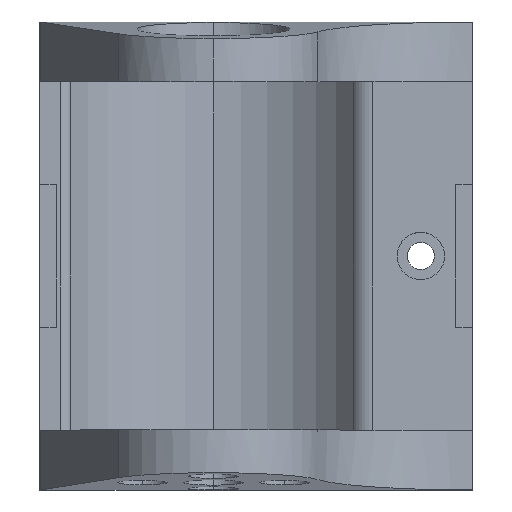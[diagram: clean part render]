
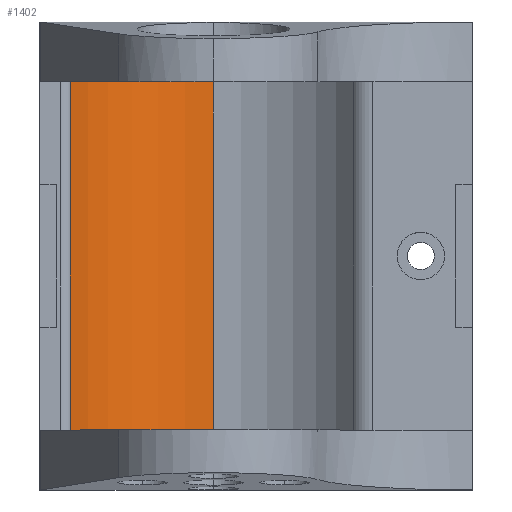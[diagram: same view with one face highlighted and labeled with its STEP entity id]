
A CAD part, top view. The second image highlights one B-rep face of the part: STEP entity #1402.
In plain terms, the highlighted cylindrical face has radius 14.25 mm (diameter 28.5 mm), a partial arc.
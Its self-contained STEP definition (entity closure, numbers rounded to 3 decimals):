
#45 = CIRCLE ( 'NONE', #2088, 14.25 ) ;
#95 = LINE ( 'NONE', #976, #1679 ) ;
#152 = CARTESIAN_POINT ( 'NONE',  ( 0., -14.7, -14.25 ) ) ;
#375 = DIRECTION ( 'NONE',  ( 0., -1., 0. ) ) ;
#474 = ORIENTED_EDGE ( 'NONE', *, *, #953, .F. ) ;
#484 = VERTEX_POINT ( 'NONE', #2593 ) ;
#488 = DIRECTION ( 'NONE',  ( 0., 1., 0. ) ) ;
#556 = CARTESIAN_POINT ( 'NONE',  ( 0., 55.005, -14.25 ) ) ;
#563 = ORIENTED_EDGE ( 'NONE', *, *, #918, .T. ) ;
#668 = EDGE_CURVE ( 'NONE', #484, #2395, #95, .T. ) ;
#887 = CYLINDRICAL_SURFACE ( 'NONE', #1995, 14.25 ) ;
#918 = EDGE_CURVE ( 'NONE', #2426, #484, #1947, .T. ) ;
#919 = CARTESIAN_POINT ( 'NONE',  ( 0., -14.7, 0. ) ) ;
#953 = EDGE_CURVE ( 'NONE', #2426, #1179, #1610, .T. ) ;
#976 = CARTESIAN_POINT ( 'NONE',  ( -12.074, 55.005, -7.569 ) ) ;
#1083 = CARTESIAN_POINT ( 'NONE',  ( -12.074, -14.7, -7.569 ) ) ;
#1103 = DIRECTION ( 'NONE',  ( 0., 1., 0. ) ) ;
#1179 = VERTEX_POINT ( 'NONE', #152 ) ;
#1402 = ADVANCED_FACE ( 'NONE', ( #2110 ), #887, .F. ) ;
#1427 = DIRECTION ( 'NONE',  ( 0., -1., 0. ) ) ;
#1527 = CARTESIAN_POINT ( 'NONE',  ( 0., 14.7, -14.25 ) ) ;
#1577 = CARTESIAN_POINT ( 'NONE',  ( 0., 14.7, 0. ) ) ;
#1586 = EDGE_CURVE ( 'NONE', #1179, #2395, #45, .T. ) ;
#1610 = LINE ( 'NONE', #556, #1859 ) ;
#1679 = VECTOR ( 'NONE', #1924, 1000. ) ;
#1747 = DIRECTION ( 'NONE',  ( 0., 0., -1. ) ) ;
#1781 = DIRECTION ( 'NONE',  ( 0., 0., 1. ) ) ;
#1859 = VECTOR ( 'NONE', #1427, 1000. ) ;
#1924 = DIRECTION ( 'NONE',  ( 0., -1., 0. ) ) ;
#1947 = CIRCLE ( 'NONE', #2805, 14.25 ) ;
#1948 = DIRECTION ( 'NONE',  ( 0., 0., 1. ) ) ;
#1995 = AXIS2_PLACEMENT_3D ( 'NONE', #2759, #375, #1747 ) ;
#2088 = AXIS2_PLACEMENT_3D ( 'NONE', #919, #488, #1781 ) ;
#2110 = FACE_OUTER_BOUND ( 'NONE', #2218, .T. ) ;
#2218 = EDGE_LOOP ( 'NONE', ( #474, #563, #2331, #2604 ) ) ;
#2331 = ORIENTED_EDGE ( 'NONE', *, *, #668, .T. ) ;
#2395 = VERTEX_POINT ( 'NONE', #1083 ) ;
#2426 = VERTEX_POINT ( 'NONE', #1527 ) ;
#2593 = CARTESIAN_POINT ( 'NONE',  ( -12.074, 14.7, -7.569 ) ) ;
#2604 = ORIENTED_EDGE ( 'NONE', *, *, #1586, .F. ) ;
#2759 = CARTESIAN_POINT ( 'NONE',  ( 0., 55.005, 0. ) ) ;
#2805 = AXIS2_PLACEMENT_3D ( 'NONE', #1577, #1103, #1948 ) ;
